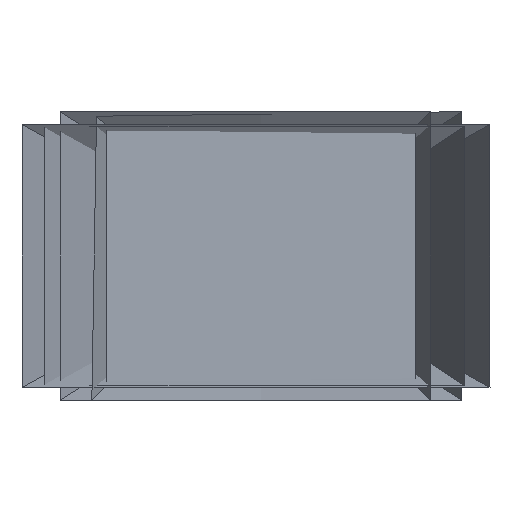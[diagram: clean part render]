
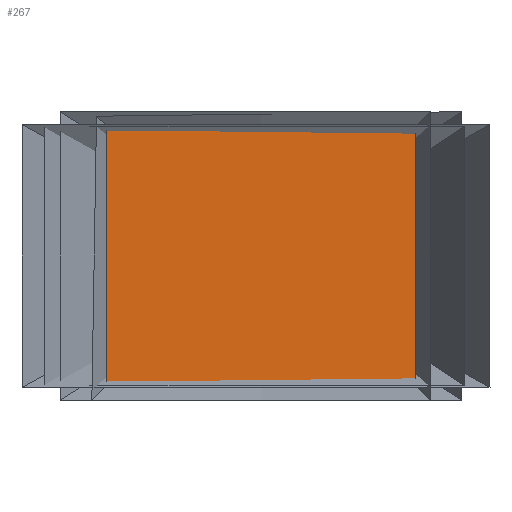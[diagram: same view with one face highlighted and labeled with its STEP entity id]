
A CAD part, front view. The second image highlights one B-rep face of the part: STEP entity #267.
In plain terms, the highlighted planar face has unit normal (0, -1, 0).
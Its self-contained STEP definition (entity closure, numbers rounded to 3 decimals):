
#85=DIRECTION('',(0.,0.,-1.));
#86=VECTOR('',#85,590.);
#87=CARTESIAN_POINT('',(-610.,-935.25,276.05));
#88=LINE('',#87,#86);
#101=DIRECTION('',(-1.,0.,0.));
#102=VECTOR('',#101,720.);
#103=CARTESIAN_POINT('',(110.,-935.25,276.05));
#104=LINE('',#103,#102);
#113=DIRECTION('',(0.,0.,1.));
#114=VECTOR('',#113,590.);
#115=CARTESIAN_POINT('',(110.,-935.25,-313.95));
#116=LINE('',#115,#114);
#121=DIRECTION('',(1.,0.,0.));
#122=VECTOR('',#121,720.);
#123=CARTESIAN_POINT('',(-610.,-935.25,-313.95));
#124=LINE('',#123,#122);
#141=CARTESIAN_POINT('',(-610.,-935.25,276.05));
#142=CARTESIAN_POINT('',(-610.,-935.25,-313.95));
#143=VERTEX_POINT('',#141);
#144=VERTEX_POINT('',#142);
#145=CARTESIAN_POINT('',(110.,-935.25,276.05));
#146=VERTEX_POINT('',#145);
#147=CARTESIAN_POINT('',(110.,-935.25,-313.95));
#148=VERTEX_POINT('',#147);
#256=CARTESIAN_POINT('',(-250.,-935.25,-18.95));
#257=DIRECTION('',(0.,1.,0.));
#258=DIRECTION('',(1.,0.,0.));
#259=AXIS2_PLACEMENT_3D('',#256,#257,#258);
#260=PLANE('',#259);
#261=ORIENTED_EDGE('',*,*,#179,.F.);
#262=ORIENTED_EDGE('',*,*,#201,.F.);
#263=ORIENTED_EDGE('',*,*,#222,.F.);
#264=ORIENTED_EDGE('',*,*,#242,.F.);
#265=EDGE_LOOP('',(#261,#262,#263,#264));
#266=FACE_OUTER_BOUND('',#265,.F.);
#267=ADVANCED_FACE('',(#266),#260,.F.);
#179=EDGE_CURVE('',#143,#144,#88,.T.);
#201=EDGE_CURVE('',#146,#143,#104,.T.);
#222=EDGE_CURVE('',#148,#146,#116,.T.);
#242=EDGE_CURVE('',#144,#148,#124,.T.);
